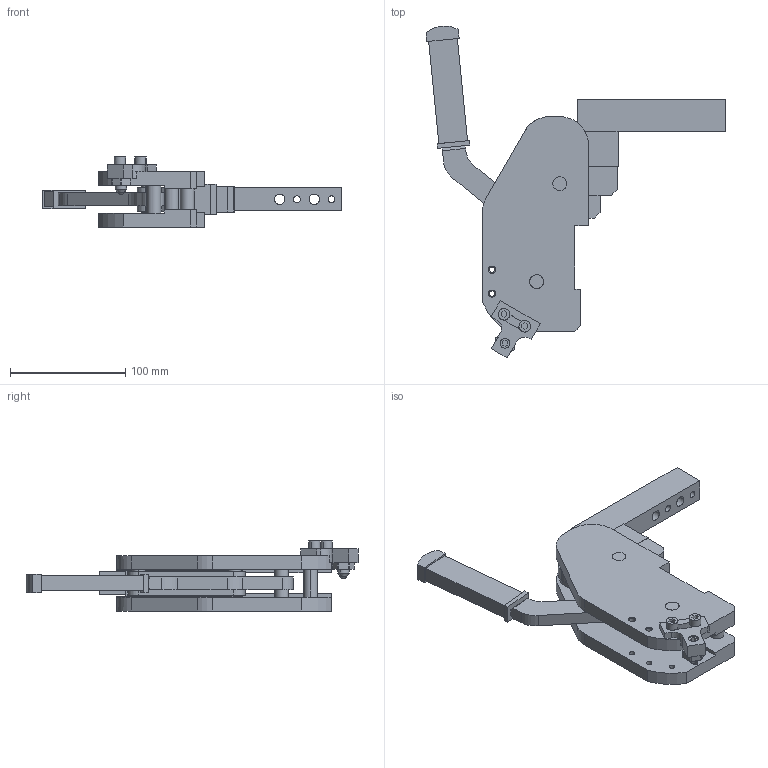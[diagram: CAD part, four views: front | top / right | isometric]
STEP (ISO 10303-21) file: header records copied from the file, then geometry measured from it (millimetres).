
FILE_DESCRIPTION (( 'STEP AP214' ), '1' );
FILE_NAME ('mc_v3c_ld.STEP', '2014-03-17T09:15:22', ( 'vep' ), ( 'TOSHIBA' ), 'SwSTEP 2.0', 'SolidWorks 2013', '' );
FILE_SCHEMA (( 'AUTOMOTIVE_DESIGN' ));
Length unit declared in the file: millimetre
Products named in the file (7): mc_v3c_ld; gruppo_montante_mc; leva_mc; biella_leva_mc_; biella_mc; staffa_fermo_leva_mc; leva_v3c_o3c_mc
Assembly tree (7 placements, depth 2):
  mc_v3c_ld
    gruppo_montante_mc
    leva_mc
    biella_leva_mc_
    biella_mc  x2
    staffa_fermo_leva_mc
    leva_v3c_o3c_mc
Bounding box: 259.82 x 287.68 x 60.7 mm (x, y, z)
Volume: 609457.9 mm3; surface area: 148451.3 mm2
Topology: 7 solids, 7 shells, 388 faces, 985 edges, 621 vertices
Faces by surface type: plane 177, cylinder 151, cone 58, sphere 2
Entity records: 12188 total; most frequent: DIRECTION 2022, CARTESIAN_POINT 1900, ORIENTED_EDGE 1844, EDGE_CURVE 922, AXIS2_PLACEMENT_3D 717, VERTEX_POINT 595, LINE 588, VECTOR 588
